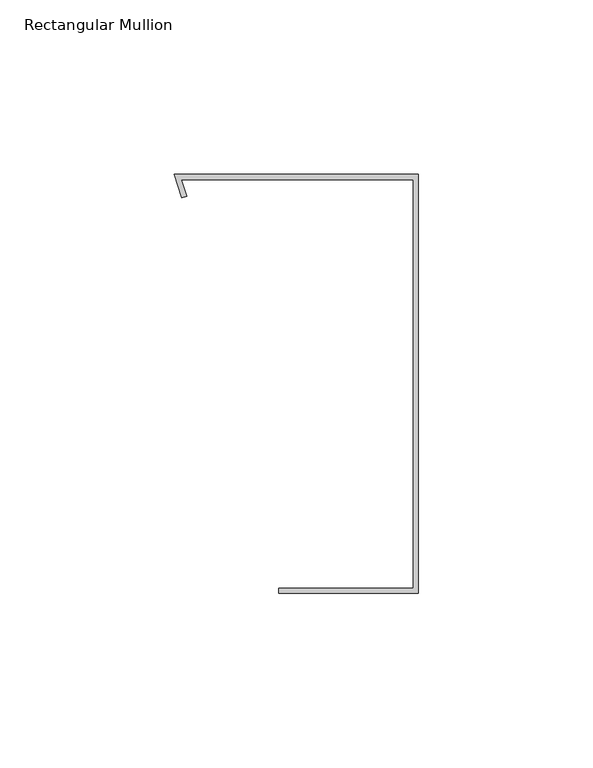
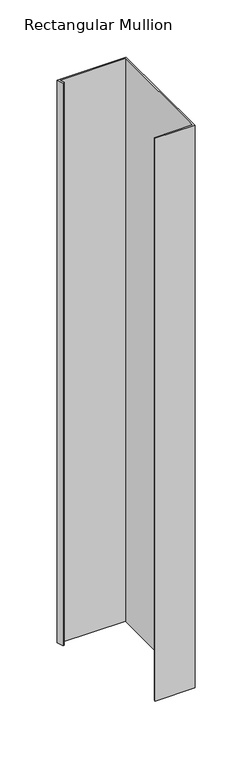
"""IFC4 building model written with IfcOpenShell, lengths in millimetres: member geometry, Rectangular Mullion : Danpal_VRS_Top-Mullion."""

from ifc_helpers import new_model, si_unit, frame, origin, place, context, project, spatial, polyline, outline, extrude, source, transform, mapped, element, save


def rectangular_mullion_7821c9bf(model_context):
    return source(origin(), model_context, "Body", "SweptSolid", [
        extrude(outline(polyline([(-67.9638912, 5.7223798), (-66.4665939, 0.9446924), (-67.8977574, 0.494831), (-70.0067967, 7.22451), (-0.0067968, 7.2284689), (0.0, -112.9511841), (-39.9999999, -112.9534463), (-40.0000849, -111.4512007), (-1.500085, -111.4490233), (-1.5067119, 5.7261384), (-67.9638912, 5.7223798)])), frame((0.0, 0.0, -601.0), z_axis=(0.0, 0.0, 1.0), x_axis=(1.0, 0.0, 0.0)), (0.0, 0.0, 1.0), 601.0),
    ])


if __name__ == "__main__":
    model = new_model("IFC4")
    model_context = context("Model", 3, world=origin())
    ifc_project = project(units=[si_unit("LENGTHUNIT", "METRE", prefix="MILLI")], contexts=[model_context])
    site = spatial("IfcSite", under=ifc_project)
    building = spatial("IfcBuilding", under=site)
    placement = place(None, origin())
    rectangular_mullion_shape = rectangular_mullion_7821c9bf(model_context)
    element("IfcMember", 1, ObjectType="Rectangular Mullion : Danpal_VRS_Top-Mullion", at=placement, inside=building, context=model_context, shape_type="MappedRepresentation", body=[
        mapped(rectangular_mullion_shape, transform((0.0, 0.0, 0.0), x_axis=(1.0, 0.0, 0.0), y_axis=(0.0, 1.0, 0.0), z_axis=(0.0, 0.0, 1.0))),
    ])
    save(model, "model.ifc")
